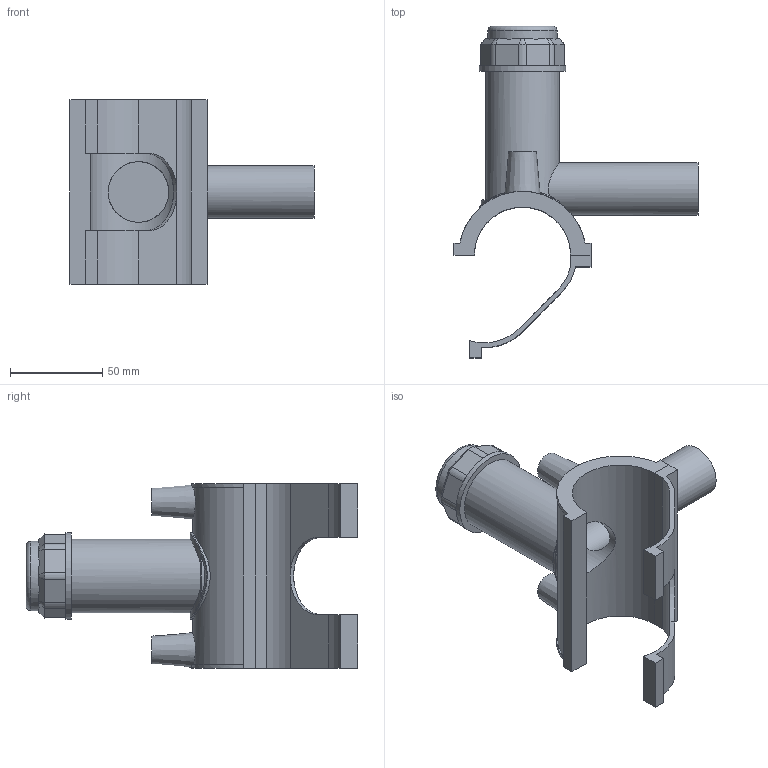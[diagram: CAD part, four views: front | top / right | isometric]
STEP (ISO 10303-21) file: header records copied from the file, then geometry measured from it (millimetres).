
FILE_DESCRIPTION(/* description */ ('PLASSON TAPPING SADDLE 1 1/2''''IPS x 1''''CTS'),/* implementation_level */ '2;1');
FILE_NAME(/* name */ 'C:\Dropbox\KIMPROJECTS-Inventor 2019\99-16-3568-Processing Inch\ASTM ElectroFusion 2021\5963B\5963BU03015010.ipt.stp',/* time_stamp */ '2021-08-30T09:56:03+03:00',/* author */ ('KIM'),/* organization */ (''),/* preprocessor_version */ 'ST-DEVELOPER v17.2',/* originating_system */ 'Autodesk Inventor 2019',/* authorisation */ '');
FILE_SCHEMA (('AUTOMOTIVE_DESIGN { 1 0 10303 214 3 1 1 }'));
Length unit declared in the file: millimetre
Products named in the file (1): 5963BU03015010
Bounding box: 132.08 x 179.59 x 100.08 mm (x, y, z)
Volume: 181036.5 mm3; surface area: 74449.8 mm2
Topology: 2 solids, 2 shells, 111 faces, 290 edges, 191 vertices
Faces by surface type: plane 66, cylinder 32, cone 11, torus 1, bspline 1
Full cylindrical faces by diameter (mm): 4 x2, 10 x2, 22.76 x1, 28.45 x1, 32.823 x1, 37.512 x1, 39.856 x1, 46.89 x1
Entity records: 3941 total; most frequent: CARTESIAN_POINT 1138, ORIENTED_EDGE 580, DIRECTION 577, EDGE_CURVE 290, AXIS2_PLACEMENT_3D 210, VERTEX_POINT 191, LINE 157, VECTOR 157
